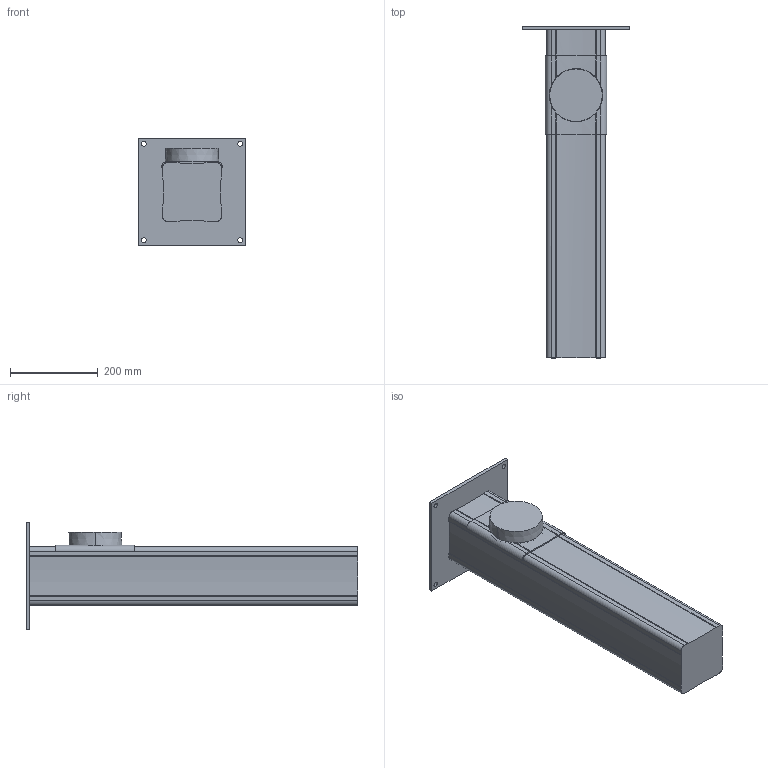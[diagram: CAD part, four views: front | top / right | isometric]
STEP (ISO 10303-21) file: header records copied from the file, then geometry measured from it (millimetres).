
FILE_DESCRIPTION((''),'2;1');
FILE_NAME('MTI750-125','2015-12-02T',('Tomas Bellgran'),(''),'PRO/ENGINEER BY PARAMETRIC TECHNOLOGY CORPORATION, 2013410','PRO/ENGINEER BY PARAMETRIC TECHNOLOGY CORPORATION, 2013410','');
FILE_SCHEMA(('AUTOMOTIVE_DESIGN { 1 0 10303 214 1 1 1 1 }'));
Length unit declared in the file: millimetre
Products named in the file (6): 100563; 100731; G_MTI_SPIGOT_100; G_MTI_SPIGOT_100_TPE; 101330; MTI750-125
Assembly tree (5 placements, depth 3):
  MTI750-125
    100563
    100731
    101330
      G_MTI_SPIGOT_100
      G_MTI_SPIGOT_100_TPE
Bounding box: 245 x 758 x 245 mm (x, y, z)
Volume: 13274029.6 mm3; surface area: 655745.6 mm2
Topology: 4 solids, 4 shells, 92 faces, 252 edges, 166 vertices
Faces by surface type: cylinder 52, plane 30, bspline 8, cone 2
Entity records: 13013 total; most frequent: CARTESIAN_POINT 8750, DIRECTION 514, ORIENTED_EDGE 504, PROPERTY_DEFINITION 255, EDGE_CURVE 252, REPRESENTATION 251, PROPERTY_DEFINITION_REPRESENTATION 251, DESCRIPTIVE_REPRESENTATION_ITEM 209
